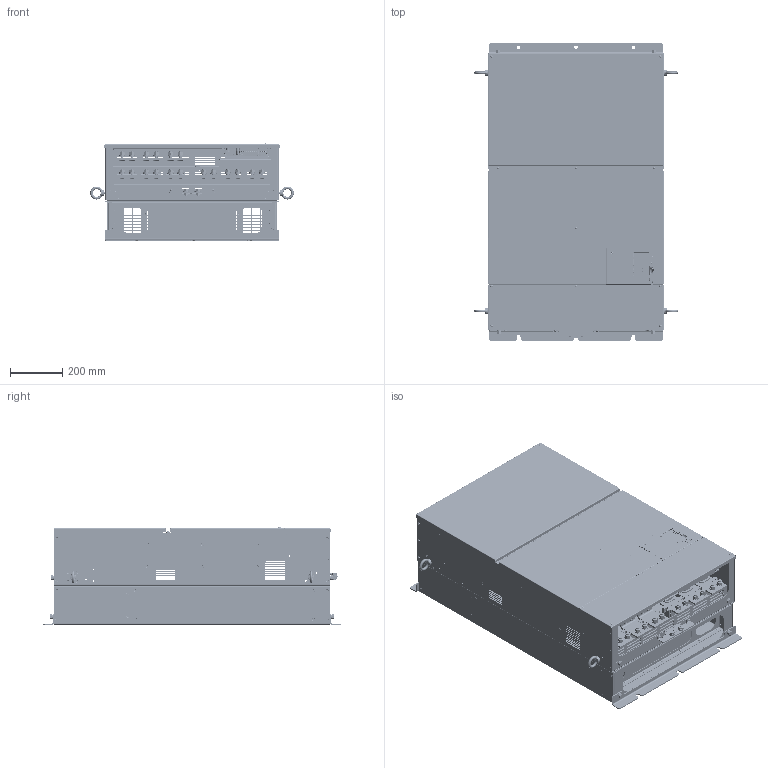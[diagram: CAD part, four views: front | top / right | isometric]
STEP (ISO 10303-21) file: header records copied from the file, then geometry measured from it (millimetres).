
FILE_DESCRIPTION((''),'2;1');
FILE_NAME('A1000_FRAME_O','2021-04-15T',('jam'),('YASKAWA ELECTRIC CORCORATION'),'PRO/ENGINEER BY PARAMETRIC TECHNOLOGY CORPORATION, 2017170','PRO/ENGINEER BY PARAMETRIC TECHNOLOGY CORPORATION, 2017170','');
FILE_SCHEMA(('AUTOMOTIVE_DESIGN { 1 0 10303 214 1 1 1 1 }'));
Products named in the file (1): A1000_FRAME_O
Bounding box: 781.2 x 1140 x 373.74 mm (x, y, z)
Surface area: 8952151.4 mm2 (no closed solid volume)
Topology: 0 solids, 1057 shells, 8357 faces, 33712 edges, 25903 vertices
Faces by surface type: plane 4680, cylinder 2048, cone 783, bspline 483, torus 233, sphere 129, extrusion 1
Entity records: 464034 total; most frequent: CARTESIAN_POINT 196459, DIRECTION 49773, ORIENTED_EDGE 49480, EDGE_CURVE 33567, VERTEX_POINT 25903, VECTOR 19425, LINE 19424, AXIS2_PLACEMENT_3D 15174
